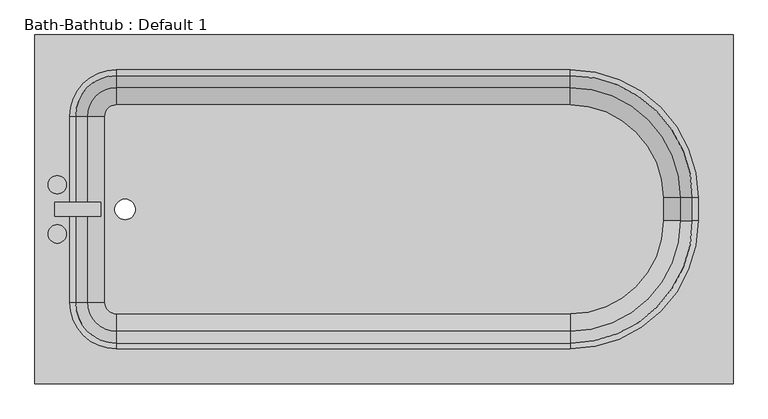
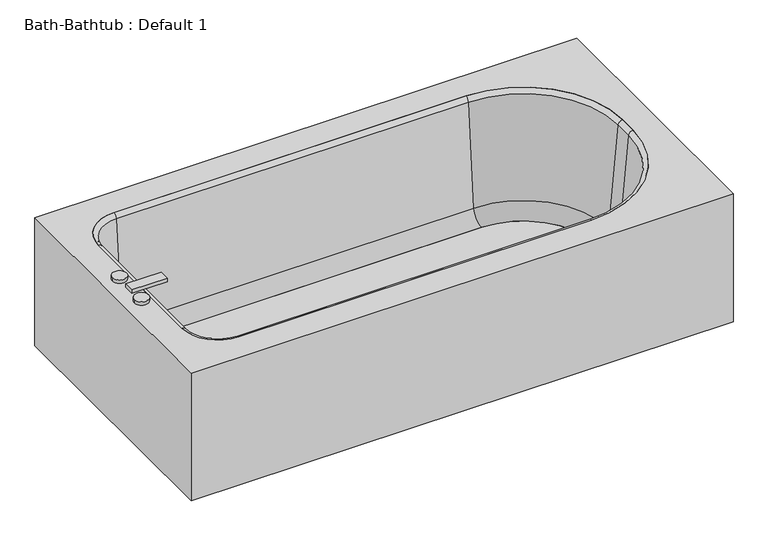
"""IFC4 building model written with IfcOpenShell, lengths in millimetres: flow terminal geometry, Bath-Bathtub : Default 1."""

from ifc_helpers import new_model, si_unit, point, frame, frame_2d, origin, place, context, project, spatial, polyline, circle_curve, ellipse_curve, trimmed, segment, composite_curve, outline, extrude, source, transform, mapped, element, save
from ifc_brep_helpers import plane_surface, cylinder_surface, revolved_surface, advanced_brep


def bath_bathtub_default_1_110718b2(model_context):
    return source(origin(), model_context, "Body", "SolidModel", [
        advanced_brep(
        [(414.3970313, 844.55, 380.0), (-1110.6029687, 844.55, 380.0), (-1110.6029687, 82.55, 380.0), (414.3970313, 82.55, 380.0), (-932.8029687, 768.35, 380.0), (58.7970313, 768.35, 380.0), (338.1970313, 488.95, 380.0), (338.1970313, 438.15, 380.0), (58.7970313, 158.75, 380.0), (-932.8029687, 158.75, 380.0), (-1034.4029687, 260.35, 380.0), (-1034.4029687, 666.75, 380.0), (395.3470313, 825.5, 360.95), (395.3470313, 101.6, 360.95), (-1091.5529687, 101.6, 360.95), (-1091.5529687, 825.5, 360.95), (-932.8029687, 768.35, 360.95), (-1034.4029687, 666.75, 360.95), (-1034.4029687, 260.35, 360.95), (-932.8029687, 158.75, 360.95), (58.7970313, 158.75, 360.95), (338.1970313, 438.15, 360.95), (338.1970313, 488.95, 360.95), (58.7970313, 768.35, 360.95), (414.3970313, 844.55, 0.0), (-1110.6029687, 844.55, 0.0), (-1110.6029687, 82.55, 0.0), (414.3970313, 82.55, 0.0), (395.3470313, 825.5, 0.0), (-1091.5529687, 825.5, 0.0), (-1091.5529687, 101.6, 0.0), (395.3470313, 101.6, 0.0)],
        [
            (0, 1),
            (1, 2),
            (2, 3),
            (3, 0),
            (4, 5),
            (5, 6, circle_curve(frame((58.7970313, 488.95, 380.0), z_axis=(0.0, 0.0, -1.0), x_axis=(0.0, 1.0, 0.0)), 279.4)),
            (6, 7),
            (7, 8, circle_curve(frame((58.7970313, 438.15, 380.0), z_axis=(0.0, 0.0, -1.0), x_axis=(0.0, 1.0, 0.0)), 279.4)),
            (8, 9),
            (9, 10, circle_curve(frame((-932.8029687, 260.35, 380.0), z_axis=(0.0, 0.0, -1.0), x_axis=(0.0, 1.0, 0.0)), 101.6)),
            (10, 11),
            (11, 4, circle_curve(frame((-932.8029687, 666.75, 380.0), z_axis=(0.0, 0.0, -1.0), x_axis=(0.0, 1.0, 0.0)), 101.6)),
            (12, 13),
            (13, 14),
            (14, 15),
            (15, 12),
            (16, 17, circle_curve(frame((-932.8029687, 666.75, 360.95), z_axis=(0.0, 0.0, 1.0), x_axis=(0.0, 1.0, 0.0)), 101.6)),
            (17, 18),
            (18, 19, circle_curve(frame((-932.8029687, 260.35, 360.95), z_axis=(0.0, 0.0, 1.0), x_axis=(0.0, 1.0, 0.0)), 101.6)),
            (19, 20),
            (20, 21, circle_curve(frame((58.7970313, 438.15, 360.95), z_axis=(0.0, 0.0, 1.0), x_axis=(0.0, 1.0, 0.0)), 279.4)),
            (21, 22),
            (22, 23, circle_curve(frame((58.7970313, 488.95, 360.95), z_axis=(0.0, 0.0, 1.0), x_axis=(0.0, 1.0, 0.0)), 279.4)),
            (23, 16),
            (0, 24),
            (24, 25),
            (25, 1),
            (25, 26),
            (26, 2),
            (26, 27),
            (27, 3),
            (27, 24),
            (4, 16),
            (23, 5),
            (22, 6),
            (21, 7),
            (20, 8),
            (19, 9),
            (18, 10),
            (17, 11),
            (28, 29),
            (29, 30),
            (30, 31),
            (31, 28),
            (31, 13),
            (12, 28),
            (30, 14),
            (29, 15),
        ],
        [
            plane_surface(frame((-1110.6029687, 844.55, 380.0), z_axis=(0.0, 0.0, 1.0), x_axis=(-1.0, 0.0, 0.0))),
            plane_surface(frame((-1110.6029687, 844.55, 360.95), z_axis=(0.0, 0.0, -1.0), x_axis=(1.0, 0.0, 0.0))),
            plane_surface(frame((414.3970313, 844.55, 380.0), z_axis=(0.0, 1.0, 0.0), x_axis=(0.0, 0.0, -1.0))),
            plane_surface(frame((-1110.6029687, 844.55, 380.0), z_axis=(-1.0, 0.0, 0.0), x_axis=(0.0, 0.0, -1.0))),
            plane_surface(frame((-1110.6029687, 82.55, 380.0), z_axis=(0.0, -1.0, 0.0), x_axis=(0.0, 0.0, -1.0))),
            plane_surface(frame((414.3970313, 82.55, 380.0), z_axis=(1.0, 0.0, 0.0), x_axis=(0.0, 0.0, -1.0))),
            plane_surface(frame((-932.8029687, 768.35, 380.0), z_axis=(0.0, -1.0, 0.0), x_axis=(0.0, 0.0, -1.0))),
            revolved_surface(polyline([(58.7970313, 768.3499999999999, 360.95), (58.7970313, 768.3499999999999, 380.0)]), (58.7970313, 488.95, 380.0), (0.0, 0.0, -1.0)),
            plane_surface(frame((338.1970313, 488.95, 380.0), z_axis=(-1.0, 0.0, 0.0), x_axis=(0.0, 0.0, -1.0))),
            revolved_surface(polyline([(58.7970313, 717.55, 360.95), (58.7970313, 717.55, 380.0)]), (58.7970313, 438.15, 380.0), (0.0, 0.0, -1.0)),
            plane_surface(frame((58.7970313, 158.75, 380.0), z_axis=(0.0, 1.0, 0.0), x_axis=(0.0, 0.0, -1.0))),
            revolved_surface(polyline([(-932.8029687, 361.95000000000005, 360.95), (-932.8029687, 361.95000000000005, 380.0)]), (-932.8029687, 260.35, 380.0), (0.0, 0.0, -1.0)),
            plane_surface(frame((-1034.4029687, 260.35, 380.0), z_axis=(1.0, 0.0, 0.0), x_axis=(0.0, 0.0, -1.0))),
            revolved_surface(polyline([(-932.8029687, 768.35, 360.95), (-932.8029687, 768.35, 380.0)]), (-932.8029687, 666.75, 380.0), (0.0, 0.0, -1.0)),
            plane_surface(frame((-1110.6029687, 844.55, 0.0), z_axis=(0.0, 0.0, -1.0), x_axis=(1.0, 0.0, 0.0))),
            plane_surface(frame((395.3470313, 825.5, 360.95), z_axis=(-1.0, 0.0, 0.0), x_axis=(0.0, 0.0, -1.0))),
            plane_surface(frame((395.3470313, 101.6, 360.95), z_axis=(0.0, 1.0, 0.0), x_axis=(0.0, 0.0, -1.0))),
            plane_surface(frame((-1091.5529687, 101.6, 360.95), z_axis=(1.0, 0.0, 0.0), x_axis=(0.0, 0.0, -1.0))),
            plane_surface(frame((-1091.5529687, 825.5, 360.95), z_axis=(0.0, -1.0, 0.0), x_axis=(0.0, 0.0, -1.0))),
        ],
        [
            (0, [[1, 2, 3, 4], [5, 6, 7, 8, 9, 10, 11, 12]]),
            (1, [[13, 14, 15, 16], [17, 18, 19, 20, 21, 22, 23, 24]]),
            (2, [[-1, 25, 26, 27]]),
            (3, [[-2, -27, 28, 29]]),
            (4, [[-3, -29, 30, 31]]),
            (5, [[-25, -4, -31, 32]]),
            (6, [[-5, 33, -24, 34]]),
            (7, [[-6, -34, -23, 35]]),
            (8, [[-7, -35, -22, 36]]),
            (9, [[-8, -36, -21, 37]]),
            (10, [[-9, -37, -20, 38]]),
            (11, [[-10, -38, -19, 39]]),
            (12, [[-11, -39, -18, 40]]),
            (13, [[-12, -40, -17, -33]]),
            (14, [[-32, -30, -28, -26], [41, 42, 43, 44]]),
            (15, [[-44, 45, -13, 46]]),
            (16, [[-43, 47, -14, -45]]),
            (17, [[-42, 48, -15, -47]]),
            (18, [[-41, -46, -16, -48]]),
        ],
    ),
        extrude(outline(composite_curve([segment(trimmed(circle_curve(frame_2d((58.7970313, 488.95)), 202.7964741), [point((58.7970313, 691.7464741))], [point((261.5935054, 488.95))], False, "CARTESIAN"), True, "CONTINUOUS"), segment(polyline([(261.5935054, 488.95), (261.5935054, 438.15)]), True, "CONTINUOUS"), segment(trimmed(circle_curve(frame_2d((58.7970313, 438.15)), 202.7964741), [point((261.5935054, 438.15))], [point((58.7970313, 235.3535259))], False, "CARTESIAN"), True, "CONTINUOUS"), segment(polyline([(58.7970313, 235.3535259), (-932.8029687, 235.3535259)]), True, "CONTINUOUS"), segment(trimmed(circle_curve(frame_2d((-932.8029687, 260.35)), 24.9964741), [point((-932.8029687, 235.3535259))], [point((-957.7994428, 260.35))], False, "CARTESIAN"), True, "CONTINUOUS"), segment(polyline([(-957.7994428, 260.35), (-957.7994428, 666.75)]), True, "CONTINUOUS"), segment(trimmed(circle_curve(frame_2d((-932.8029687, 666.75)), 24.9964741), [point((-957.7994428, 666.75))], [point((-932.8029687, 691.7464741))], False, "CARTESIAN"), True, "CONTINUOUS"), segment(polyline([(-932.8029687, 691.7464741), (58.7970313, 691.7464741)]), True, "CONTINUOUS")], self_intersect=False), holes=[composite_curve([segment(trimmed(circle_curve(frame_2d((-913.5971625, 463.55)), 22.225), [point((-913.5971625, 485.775))], [point((-913.5971625, 441.325))], True, "CARTESIAN"), True, "CONTINUOUS"), segment(trimmed(circle_curve(frame_2d((-913.5971625, 463.55)), 22.225), [point((-913.5971625, 441.325))], [point((-913.5971625, 485.775))], True, "CARTESIAN"), True, "CONTINUOUS")], self_intersect=False)]), frame((0.0, 0.0, 15.863573), z_axis=(0.0, 0.0, 1.0), x_axis=(1.0, 0.0, 0.0)), (0.0, 0.0, 1.0), 19.05),
        advanced_brep(
        [(-995.7544608, 666.75, 69.6929392), (-932.8029687, 729.7014921, 69.6929392), (-932.8029687, 755.8720035, 368.8232535), (-1021.9249722, 666.75, 368.8232535), (-957.7994428, 666.75, 34.913573), (-932.8029687, 691.7464741, 34.913573), (-957.7994428, 666.75, 15.863573), (-932.8029687, 691.7464741, 15.863573), (-1034.4029687, 666.75, 15.863573), (-932.8029687, 768.35, 15.863573), (-1034.4029687, 666.75, 380.0), (-932.8029687, 768.35, 380.0), (-1021.9249722, 260.35, 368.8232535), (-995.7544608, 260.35, 69.6929392), (-957.7994428, 260.35, 34.913573), (-957.7994428, 260.35, 15.863573), (-1034.4029687, 260.35, 15.863573), (-1034.4029687, 260.35, 380.0), (-932.8029687, 197.3985079, 69.6929392), (-932.8029687, 171.2279965, 368.8232535), (-932.8029687, 235.3535259, 34.913573), (-932.8029687, 235.3535259, 15.863573), (-932.8029687, 158.75, 15.863573), (-932.8029687, 158.75, 380.0), (58.7970313, 171.2279965, 368.8232535), (58.7970313, 197.3985079, 69.6929392), (58.7970313, 235.3535259, 34.913573), (58.7970313, 235.3535259, 15.863573), (58.7970313, 158.75, 15.863573), (58.7970313, 158.75, 380.0), (299.5485234, 438.15, 69.6929392), (325.7190348, 438.15, 368.8232535), (261.5935054, 438.15, 34.913573), (261.5935054, 438.15, 15.863573), (338.1970313, 438.15, 15.863573), (338.1970313, 438.15, 380.0), (325.7190348, 488.95, 368.8232535), (299.5485234, 488.95, 69.6929392), (261.5935054, 488.95, 34.913573), (261.5935054, 488.95, 15.863573), (338.1970313, 488.95, 15.863573), (338.1970313, 488.95, 380.0), (58.7970313, 729.7014921, 69.6929392), (58.7970313, 755.8720035, 368.8232535), (58.7970313, 691.7464741, 34.913573), (58.7970313, 691.7464741, 15.863573), (58.7970313, 768.35, 15.863573), (58.7970313, 768.35, 380.0)],
        [
            (0, 1, circle_curve(frame((-932.8029687, 666.75, 69.6929392), z_axis=(0.0, 0.0, -1.0), x_axis=(0.0, 1.0, 0.0)), 62.9514921)),
            (1, 2),
            (2, 3, circle_curve(frame((-932.8029687, 666.75, 368.8232535), z_axis=(0.0, 0.0, 1.0), x_axis=(0.0, 1.0, 0.0)), 89.1220035)),
            (3, 0),
            (4, 5, circle_curve(frame((-932.8029687, 666.75, 34.913573), z_axis=(0.0, 0.0, -1.0), x_axis=(0.0, 1.0, 0.0)), 24.9964741)),
            (5, 1, circle_curve(frame((-932.8029687, 691.7464741, 73.013573), z_axis=(1.0, 0.0, 0.0), x_axis=(0.0, -1.0, 0.0)), 38.1)),
            (0, 4, circle_curve(frame((-957.7994428, 666.75, 73.013573), z_axis=(0.0, -1.0, 0.0), x_axis=(1.0, 0.0, 0.0)), 38.1)),
            (6, 7, circle_curve(frame((-932.8029687, 666.75, 15.863573), z_axis=(0.0, 0.0, -1.0), x_axis=(0.0, 1.0, 0.0)), 24.9964741)),
            (7, 5),
            (4, 6),
            (8, 9, circle_curve(frame((-932.8029687, 666.75, 15.863573), z_axis=(0.0, 0.0, -1.0), x_axis=(0.0, 1.0, 0.0)), 101.6)),
            (9, 7),
            (6, 8),
            (10, 11, circle_curve(frame((-932.8029687, 666.75, 380.0), z_axis=(0.0, 0.0, -1.0), x_axis=(0.0, 1.0, 0.0)), 101.6)),
            (11, 9),
            (8, 10),
            (2, 11, circle_curve(frame((-932.8029687, 768.35, 367.4462547), z_axis=(-1.0, 0.0, 0.0), x_axis=(0.0, -1.0, 0.0)), 12.5537453)),
            (10, 3, circle_curve(frame((-1034.4029687, 666.75, 367.4462547), z_axis=(0.0, 1.0, 0.0), x_axis=(1.0, 0.0, 0.0)), 12.5537453)),
            (3, 12),
            (12, 13),
            (13, 0),
            (13, 14, circle_curve(frame((-957.7994428, 260.35, 73.013573), z_axis=(0.0, -1.0, 0.0), x_axis=(1.0, 0.0, 0.0)), 38.1)),
            (14, 4),
            (14, 15),
            (15, 6),
            (15, 16),
            (16, 8),
            (16, 17),
            (17, 10),
            (17, 12, circle_curve(frame((-1034.4029687, 260.35, 367.4462547), z_axis=(0.0, 1.0, 0.0), x_axis=(1.0, 0.0, 0.0)), 12.5537453)),
            (18, 13, circle_curve(frame((-932.8029687, 260.35, 69.6929392), z_axis=(0.0, 0.0, -1.0), x_axis=(-1.0, 0.0, 0.0)), 62.9514921)),
            (12, 19, circle_curve(frame((-932.8029687, 260.35, 368.8232535), z_axis=(0.0, 0.0, 1.0), x_axis=(-1.0, 0.0, 0.0)), 89.1220035)),
            (19, 18),
            (20, 14, circle_curve(frame((-932.8029687, 260.35, 34.913573), z_axis=(0.0, 0.0, -1.0), x_axis=(-1.0, 0.0, 0.0)), 24.9964741)),
            (18, 20, circle_curve(frame((-932.8029687, 235.3535259, 73.013573), z_axis=(1.0, 0.0, 0.0), x_axis=(0.0, 1.0, 0.0)), 38.1)),
            (21, 15, circle_curve(frame((-932.8029687, 260.35, 15.863573), z_axis=(0.0, 0.0, -1.0), x_axis=(-1.0, 0.0, 0.0)), 24.9964741)),
            (20, 21),
            (22, 16, circle_curve(frame((-932.8029687, 260.35, 15.863573), z_axis=(0.0, 0.0, -1.0), x_axis=(-1.0, 0.0, 0.0)), 101.6)),
            (21, 22),
            (23, 17, circle_curve(frame((-932.8029687, 260.35, 380.0), z_axis=(0.0, 0.0, -1.0), x_axis=(-1.0, 0.0, 0.0)), 101.6)),
            (22, 23),
            (23, 19, circle_curve(frame((-932.8029687, 158.75, 367.4462547), z_axis=(-1.0, 0.0, 0.0), x_axis=(0.0, 1.0, 0.0)), 12.5537453)),
            (19, 24),
            (24, 25),
            (25, 18),
            (25, 26, circle_curve(frame((58.7970313, 235.3535259, 73.013573), z_axis=(1.0, 0.0, 0.0), x_axis=(0.0, 1.0, 0.0)), 38.1)),
            (26, 20),
            (26, 27),
            (27, 21),
            (27, 28),
            (28, 22),
            (28, 29),
            (29, 23),
            (29, 24, circle_curve(frame((58.7970313, 158.75, 367.4462547), z_axis=(-1.0, 0.0, 0.0), x_axis=(0.0, 1.0, 0.0)), 12.5537453)),
            (30, 25, circle_curve(frame((58.7970313, 438.15, 69.6929392), z_axis=(0.0, 0.0, -1.0), x_axis=(0.0, -1.0, 0.0)), 240.7514921)),
            (24, 31, circle_curve(frame((58.7970313, 438.15, 368.8232535), z_axis=(0.0, 0.0, 1.0), x_axis=(0.0, -1.0, 0.0)), 266.9220035)),
            (31, 30),
            (32, 26, circle_curve(frame((58.7970313, 438.15, 34.913573), z_axis=(0.0, 0.0, -1.0), x_axis=(0.0, -1.0, 0.0)), 202.7964741)),
            (30, 32, circle_curve(frame((261.5935054, 438.15, 73.013573), z_axis=(0.0, 1.0, 0.0), x_axis=(-1.0, 0.0, 0.0)), 38.1)),
            (33, 27, circle_curve(frame((58.7970313, 438.15, 15.863573), z_axis=(0.0, 0.0, -1.0), x_axis=(0.0, -1.0, 0.0)), 202.7964741)),
            (32, 33),
            (34, 28, circle_curve(frame((58.7970313, 438.15, 15.863573), z_axis=(0.0, 0.0, -1.0), x_axis=(0.0, -1.0, 0.0)), 279.4)),
            (33, 34),
            (35, 29, circle_curve(frame((58.7970313, 438.15, 380.0), z_axis=(0.0, 0.0, -1.0), x_axis=(0.0, -1.0, 0.0)), 279.4)),
            (34, 35),
            (35, 31, circle_curve(frame((338.1970313, 438.15, 367.4462547), z_axis=(0.0, -1.0, 0.0), x_axis=(-1.0, 0.0, 0.0)), 12.5537453)),
            (31, 36),
            (36, 37),
            (37, 30),
            (37, 38, circle_curve(frame((261.5935054, 488.95, 73.013573), z_axis=(0.0, 1.0, 0.0), x_axis=(-1.0, 0.0, 0.0)), 38.1)),
            (38, 32),
            (38, 39),
            (39, 33),
            (39, 40),
            (40, 34),
            (40, 41),
            (41, 35),
            (41, 36, circle_curve(frame((338.1970313, 488.95, 367.4462547), z_axis=(0.0, -1.0, 0.0), x_axis=(-1.0, 0.0, 0.0)), 12.5537453)),
            (42, 37, circle_curve(frame((58.7970313, 488.95, 69.6929392), z_axis=(0.0, 0.0, -1.0), x_axis=(1.0, 0.0, 0.0)), 240.7514921)),
            (36, 43, circle_curve(frame((58.7970313, 488.95, 368.8232535), z_axis=(0.0, 0.0, 1.0), x_axis=(1.0, 0.0, 0.0)), 266.9220035)),
            (43, 42),
            (44, 38, circle_curve(frame((58.7970313, 488.95, 34.913573), z_axis=(0.0, 0.0, -1.0), x_axis=(1.0, 0.0, 0.0)), 202.7964741)),
            (42, 44, circle_curve(frame((58.7970313, 691.7464741, 73.013573), z_axis=(-1.0, 0.0, 0.0), x_axis=(0.0, -1.0, 0.0)), 38.1)),
            (45, 39, circle_curve(frame((58.7970313, 488.95, 15.863573), z_axis=(0.0, 0.0, -1.0), x_axis=(1.0, 0.0, 0.0)), 202.7964741)),
            (44, 45),
            (46, 40, circle_curve(frame((58.7970313, 488.95, 15.863573), z_axis=(0.0, 0.0, -1.0), x_axis=(1.0, 0.0, 0.0)), 279.4)),
            (45, 46),
            (47, 41, circle_curve(frame((58.7970313, 488.95, 380.0), z_axis=(0.0, 0.0, -1.0), x_axis=(1.0, 0.0, 0.0)), 279.4)),
            (46, 47),
            (47, 43, circle_curve(frame((58.7970313, 768.35, 367.4462547), z_axis=(1.0, 0.0, 0.0), x_axis=(0.0, -1.0, 0.0)), 12.5537453)),
            (43, 2),
            (1, 42),
            (5, 44),
            (7, 45),
            (9, 46),
            (11, 47),
        ],
        [
            revolved_surface(polyline([(-932.8029687, 755.8720035, 368.8232535), (-932.8029687, 729.7014921, 69.6929392)]), (-932.8029687, 666.75, 380.0), (0.0, 0.0, 1.0)),
            revolved_surface(trimmed(ellipse_curve(frame((-932.8029687, 691.7464741, 73.013573), z_axis=(-1.0, 0.0, 0.0), x_axis=(0.0, -1.0, 0.0)), 38.1, 38.1), [point((-932.8029687, 729.7014921, 69.6929392))], [point((-932.8029687, 691.7464741, 34.913573))], True, "CARTESIAN"), (-932.8029687, 666.75, 380.0), (0.0, 0.0, 1.0)),
            revolved_surface(polyline([(-932.8029687, 691.7464741, 34.913572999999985), (-932.8029687, 691.7464741, 15.863572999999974)]), (-932.8029687, 666.75, 380.0), (0.0, 0.0, 1.0)),
            plane_surface(frame((-932.8029687, 666.75, 15.863573), z_axis=(0.0, 0.0, -1.0), x_axis=(0.0, 1.0, 0.0))),
            cylinder_surface(frame((-932.8029687, 666.75, 380.0), z_axis=(0.0, 0.0, 1.0), x_axis=(0.0, 1.0, 0.0)), 101.6),
            revolved_surface(trimmed(ellipse_curve(frame((-932.8029687, 768.35, 367.4462547), z_axis=(1.0, 0.0, 0.0), x_axis=(0.0, -1.0, 0.0)), 12.5537453, 12.5537453), [point((-932.8029687, 768.35, 380.0))], [point((-932.8029687, 755.8720035, 368.8232535))], True, "CARTESIAN"), (-932.8029687, 666.75, 380.0), (0.0, 0.0, 1.0)),
            plane_surface(frame((-1021.9249722, 666.75, 368.8232535), z_axis=(0.9961946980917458, 0.0, 0.08715574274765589), x_axis=(0.0, -1.0, 0.0))),
            revolved_surface(polyline([(-919.6994427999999, 260.35, 73.013573), (-919.6994427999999, 666.75, 73.013573)]), (-957.7994428, 666.75, 73.013573), (0.0, -1.0, 0.0)),
            plane_surface(frame((-957.7994428, 666.75, 34.913573), z_axis=(1.0, 0.0, 0.0), x_axis=(0.0, -1.0, 0.0))),
            plane_surface(frame((-957.7994428, 666.75, 15.863573), z_axis=(0.0, 0.0, -1.0), x_axis=(0.0, -1.0, 0.0))),
            plane_surface(frame((-1034.4029687, 666.75, 15.863573), z_axis=(-1.0, 0.0, 0.0), x_axis=(0.0, -1.0, 0.0))),
            cylinder_surface(frame((-1034.4029687, 666.75, 367.4462547), z_axis=(0.0, 1.0, 0.0), x_axis=(1.0, 0.0, 0.0)), 12.5537453),
            revolved_surface(polyline([(-1021.9249722, 260.35, 368.8232535), (-995.7544608, 260.35, 69.6929392)]), (-932.8029687, 260.35, 380.0), (0.0, 0.0, 1.0)),
            revolved_surface(trimmed(ellipse_curve(frame((-957.7994428, 260.35, 73.013573), z_axis=(0.0, -1.0, 0.0), x_axis=(1.0, 0.0, 0.0)), 38.1, 38.1), [point((-995.7544608, 260.35, 69.6929392))], [point((-957.7994428, 260.35, 34.913573))], True, "CARTESIAN"), (-932.8029687, 260.35, 380.0), (0.0, 0.0, 1.0)),
            revolved_surface(polyline([(-957.7994428, 260.35, 34.913572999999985), (-957.7994428, 260.35, 15.863572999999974)]), (-932.8029687, 260.35, 380.0), (0.0, 0.0, 1.0)),
            plane_surface(frame((-932.8029687, 260.35, 15.863573), z_axis=(0.0, 0.0, -1.0), x_axis=(-1.0, 0.0, 0.0))),
            cylinder_surface(frame((-932.8029687, 260.35, 380.0), z_axis=(0.0, 0.0, 1.0), x_axis=(-1.0, 0.0, 0.0)), 101.6),
            revolved_surface(trimmed(ellipse_curve(frame((-1034.4029687, 260.35, 367.4462547), z_axis=(0.0, 1.0, 0.0), x_axis=(1.0, 0.0, 0.0)), 12.5537453, 12.5537453), [point((-1034.4029687, 260.35, 380.0))], [point((-1021.9249722, 260.35, 368.8232535))], True, "CARTESIAN"), (-932.8029687, 260.35, 380.0), (0.0, 0.0, 1.0)),
            plane_surface(frame((-932.8029687, 171.2279965, 368.8232535), z_axis=(0.0, 0.9961946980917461, 0.08715574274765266), x_axis=(1.0, 0.0, 0.0))),
            revolved_surface(polyline([(58.79703129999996, 273.4535259, 73.013573), (-932.8029687, 273.4535259, 73.013573)]), (-932.8029687, 235.3535259, 73.013573), (1.0, 0.0, 0.0)),
            plane_surface(frame((-932.8029687, 235.3535259, 34.913573), z_axis=(0.0, 1.0, 0.0), x_axis=(1.0, 0.0, 0.0))),
            plane_surface(frame((-932.8029687, 235.3535259, 15.863573), z_axis=(0.0, 0.0, -1.0), x_axis=(1.0, 0.0, 0.0))),
            plane_surface(frame((-932.8029687, 158.75, 15.863573), z_axis=(0.0, -1.0, 0.0), x_axis=(1.0, 0.0, 0.0))),
            cylinder_surface(frame((-932.8029687, 158.75, 367.4462547), z_axis=(-1.0, 0.0, 0.0), x_axis=(0.0, 1.0, 0.0)), 12.5537453),
            revolved_surface(polyline([(58.7970313, 171.2279965, 368.8232535), (58.7970313, 197.3985079, 69.6929392)]), (58.7970313, 438.15, 380.0), (0.0, 0.0, 1.0)),
            revolved_surface(trimmed(ellipse_curve(frame((58.7970313, 235.3535259, 73.013573), z_axis=(1.0, 0.0, 0.0), x_axis=(0.0, 1.0, 0.0)), 38.1, 38.1), [point((58.7970313, 197.3985079, 69.6929392))], [point((58.7970313, 235.3535259, 34.913573))], True, "CARTESIAN"), (58.7970313, 438.15, 380.0), (0.0, 0.0, 1.0)),
            revolved_surface(polyline([(58.7970313, 235.35352589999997, 34.913572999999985), (58.7970313, 235.35352589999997, 15.863572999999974)]), (58.7970313, 438.15, 380.0), (0.0, 0.0, 1.0)),
            plane_surface(frame((58.7970313, 438.15, 15.863573), z_axis=(0.0, 0.0, -1.0), x_axis=(0.0, -1.0, 0.0))),
            cylinder_surface(frame((58.7970313, 438.15, 380.0), z_axis=(0.0, 0.0, 1.0), x_axis=(0.0, -1.0, 0.0)), 279.4),
            revolved_surface(trimmed(ellipse_curve(frame((58.7970313, 158.75, 367.4462547), z_axis=(-1.0, 0.0, 0.0), x_axis=(0.0, 1.0, 0.0)), 12.5537453, 12.5537453), [point((58.7970313, 158.75, 380.0))], [point((58.7970313, 171.2279965, 368.8232535))], True, "CARTESIAN"), (58.7970313, 438.15, 380.0), (0.0, 0.0, 1.0)),
            plane_surface(frame((325.7190348, 438.15, 368.8232535), z_axis=(-0.9961946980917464, 0.0, 0.08715574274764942), x_axis=(0.0, 1.0, 0.0))),
            revolved_surface(polyline([(223.49350540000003, 488.95, 73.013573), (223.49350540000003, 438.15, 73.013573)]), (261.5935054, 438.15, 73.013573), (0.0, 1.0, 0.0)),
            plane_surface(frame((261.5935054, 438.15, 34.913573), z_axis=(-1.0, 0.0, 0.0), x_axis=(0.0, 1.0, 0.0))),
            plane_surface(frame((261.5935054, 438.15, 15.863573), z_axis=(0.0, 0.0, -1.0), x_axis=(0.0, 1.0, 0.0))),
            plane_surface(frame((338.1970313, 438.15, 15.863573), z_axis=(1.0, 0.0, 0.0), x_axis=(0.0, 1.0, 0.0))),
            cylinder_surface(frame((338.1970313, 438.15, 367.4462547), z_axis=(0.0, -1.0, 0.0), x_axis=(-1.0, 0.0, 0.0)), 12.5537453),
            revolved_surface(polyline([(325.7190348, 488.95, 368.8232535), (299.5485234, 488.95, 69.6929392)]), (58.7970313, 488.95, 380.0), (0.0, 0.0, 1.0)),
            revolved_surface(trimmed(ellipse_curve(frame((261.5935054, 488.95, 73.013573), z_axis=(0.0, 1.0, 0.0), x_axis=(-1.0, 0.0, 0.0)), 38.1, 38.1), [point((299.5485234, 488.95, 69.6929392))], [point((261.5935054, 488.95, 34.913573))], True, "CARTESIAN"), (58.7970313, 488.95, 380.0), (0.0, 0.0, 1.0)),
            revolved_surface(polyline([(261.5935054, 488.95, 34.913572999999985), (261.5935054, 488.95, 15.863572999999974)]), (58.7970313, 488.95, 380.0), (0.0, 0.0, 1.0)),
            plane_surface(frame((58.7970313, 488.95, 15.863573), z_axis=(0.0, 0.0, -1.0), x_axis=(1.0, 0.0, 0.0))),
            cylinder_surface(frame((58.7970313, 488.95, 380.0), z_axis=(0.0, 0.0, 1.0), x_axis=(1.0, 0.0, 0.0)), 279.4),
            revolved_surface(trimmed(ellipse_curve(frame((338.1970313, 488.95, 367.4462547), z_axis=(0.0, -1.0, 0.0), x_axis=(-1.0, 0.0, 0.0)), 12.5537453, 12.5537453), [point((338.1970313, 488.95, 380.0))], [point((325.7190348, 488.95, 368.8232535))], True, "CARTESIAN"), (58.7970313, 488.95, 380.0), (0.0, 0.0, 1.0)),
            plane_surface(frame((58.7970313, 755.8720035, 368.8232535), z_axis=(0.0, -0.9961946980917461, 0.08715574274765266), x_axis=(-1.0, 0.0, 0.0))),
            revolved_surface(polyline([(-932.8029687, 653.6464741, 73.013573), (58.7970313, 653.6464741, 73.013573)]), (58.7970313, 691.7464741, 73.013573), (-1.0, 0.0, 0.0)),
            plane_surface(frame((58.7970313, 691.7464741, 34.913573), z_axis=(0.0, -1.0, 0.0), x_axis=(-1.0, 0.0, 0.0))),
            plane_surface(frame((58.7970313, 691.7464741, 15.863573), z_axis=(0.0, 0.0, -1.0), x_axis=(-1.0, 0.0, 0.0))),
            plane_surface(frame((58.7970313, 768.35, 15.863573), z_axis=(0.0, 1.0, 0.0), x_axis=(-1.0, 0.0, 0.0))),
            cylinder_surface(frame((58.7970313, 768.35, 367.4462547), z_axis=(1.0, 0.0, 0.0), x_axis=(0.0, -1.0, 0.0)), 12.5537453),
        ],
        [
            (0, [[1, 2, 3, 4]]),
            (1, [[5, 6, -1, 7]]),
            (2, [[8, 9, -5, 10]]),
            (3, [[11, 12, -8, 13]]),
            (4, [[14, 15, -11, 16]]),
            (5, [[-3, 17, -14, 18]]),
            (6, [[-4, 19, 20, 21]]),
            (7, [[-7, -21, 22, 23]]),
            (8, [[-10, -23, 24, 25]]),
            (9, [[-13, -25, 26, 27]]),
            (10, [[-16, -27, 28, 29]]),
            (11, [[-18, -29, 30, -19]]),
            (12, [[31, -20, 32, 33]]),
            (13, [[34, -22, -31, 35]]),
            (14, [[36, -24, -34, 37]]),
            (15, [[38, -26, -36, 39]]),
            (16, [[40, -28, -38, 41]]),
            (17, [[-32, -30, -40, 42]]),
            (18, [[-33, 43, 44, 45]]),
            (19, [[-35, -45, 46, 47]]),
            (20, [[-37, -47, 48, 49]]),
            (21, [[-39, -49, 50, 51]]),
            (22, [[-41, -51, 52, 53]]),
            (23, [[-42, -53, 54, -43]]),
            (24, [[55, -44, 56, 57]]),
            (25, [[58, -46, -55, 59]]),
            (26, [[60, -48, -58, 61]]),
            (27, [[62, -50, -60, 63]]),
            (28, [[64, -52, -62, 65]]),
            (29, [[-56, -54, -64, 66]]),
            (30, [[-57, 67, 68, 69]]),
            (31, [[-59, -69, 70, 71]]),
            (32, [[-61, -71, 72, 73]]),
            (33, [[-63, -73, 74, 75]]),
            (34, [[-65, -75, 76, 77]]),
            (35, [[-66, -77, 78, -67]]),
            (36, [[79, -68, 80, 81]]),
            (37, [[82, -70, -79, 83]]),
            (38, [[84, -72, -82, 85]]),
            (39, [[86, -74, -84, 87]]),
            (40, [[88, -76, -86, 89]]),
            (41, [[-80, -78, -88, 90]]),
            (42, [[-81, 91, -2, 92]]),
            (43, [[-83, -92, -6, 93]]),
            (44, [[-85, -93, -9, 94]]),
            (45, [[-87, -94, -12, 95]]),
            (46, [[-89, -95, -15, 96]]),
            (47, [[-90, -96, -17, -91]]),
        ],
    ),
        extrude(outline(polyline([(-1066.8328759, 478.55), (-966.8328759, 478.55), (-966.8328759, 448.55), (-1066.8328759, 448.55), (-1066.8328759, 478.55)])), frame((0.0, 0.0, 380.0), z_axis=(0.0, 0.0, 1.0), x_axis=(1.0, 0.0, 0.0)), (0.0, 0.0, 1.0), 10.6738596),
        extrude(outline(composite_curve([segment(trimmed(circle_curve(frame_2d((-1061.8660369, 517.2447376)), 20.0), [point((-1041.8660369, 517.2447376))], [point((-1081.8660369, 517.2447376))], False, "CARTESIAN"), True, "CONTINUOUS"), segment(trimmed(circle_curve(frame_2d((-1061.8660369, 517.2447376)), 20.0), [point((-1081.8660369, 517.2447376))], [point((-1041.8660369, 517.2447376))], False, "CARTESIAN"), True, "CONTINUOUS")], self_intersect=False)), frame((0.0, 0.0, 380.0), z_axis=(0.0, 0.0, 1.0), x_axis=(1.0, 0.0, 0.0)), (0.0, 0.0, 1.0), 10.6738596),
        extrude(outline(composite_curve([segment(trimmed(circle_curve(frame_2d((-1061.8660369, 409.8552624)), 20.0), [point((-1041.8660369, 409.8552624))], [point((-1081.8660369, 409.8552624))], False, "CARTESIAN"), True, "CONTINUOUS"), segment(trimmed(circle_curve(frame_2d((-1061.8660369, 409.8552624)), 20.0), [point((-1081.8660369, 409.8552624))], [point((-1041.8660369, 409.8552624))], False, "CARTESIAN"), True, "CONTINUOUS")], self_intersect=False)), frame((0.0, 0.0, 380.0), z_axis=(0.0, 0.0, 1.0), x_axis=(1.0, 0.0, 0.0)), (0.0, 0.0, 1.0), 10.6738596),
    ])


if __name__ == "__main__":
    model = new_model("IFC4")
    model_context = context("Model", 3, world=origin())
    ifc_project = project(units=[si_unit("LENGTHUNIT", "METRE", prefix="MILLI")], contexts=[model_context])
    site = spatial("IfcSite", under=ifc_project)
    building = spatial("IfcBuilding", under=site)
    placement = place(None, origin())
    bath_bathtub_default_1_shape = bath_bathtub_default_1_110718b2(model_context)
    element("IfcFlowTerminal", 1, ObjectType="Bath-Bathtub : Default 1", at=placement, inside=building, context=model_context, shape_type="MappedRepresentation", body=[
        mapped(bath_bathtub_default_1_shape, transform((0.0, 0.0, 0.0), x_axis=(1.0, 0.0, 0.0), y_axis=(0.0, 1.0, 0.0), z_axis=(0.0, 0.0, 1.0))),
    ])
    save(model, "model.ifc")
